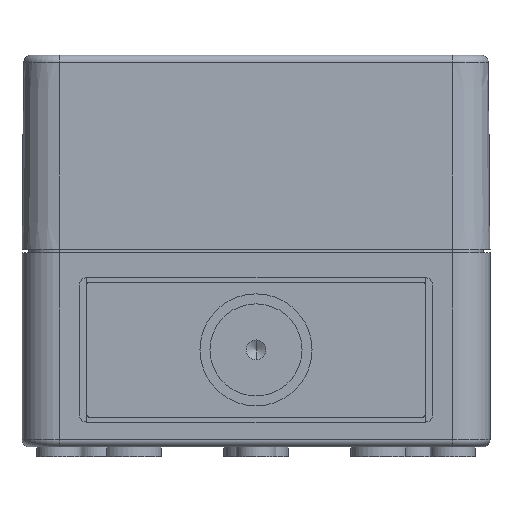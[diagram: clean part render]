
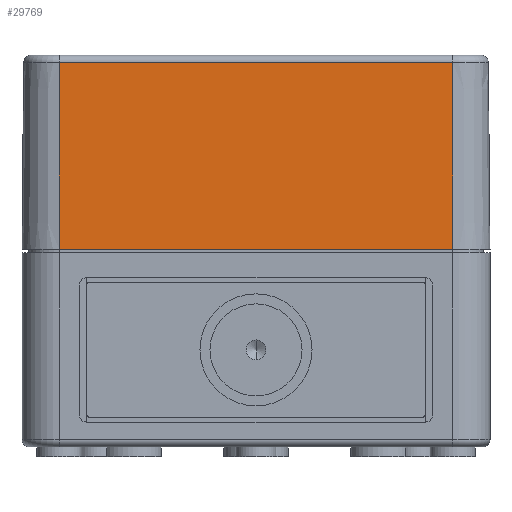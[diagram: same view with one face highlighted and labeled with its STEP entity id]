
A CAD part, front view. The second image highlights one B-rep face of the part: STEP entity #29769.
In plain terms, the highlighted planar face has unit normal (0, -1, 0.009).
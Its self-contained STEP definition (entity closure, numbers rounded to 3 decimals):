
#344 = CARTESIAN_POINT ( 'NONE',  ( 39.5, -46.673, 37.513 ) ) ;
#785 = DIRECTION ( 'NONE',  ( 0., 0.009, 1. ) ) ;
#969 = DIRECTION ( 'NONE',  ( 0., -0.009, -1. ) ) ;
#3981 = VECTOR ( 'NONE', #969, 1000. ) ;
#4092 = CARTESIAN_POINT ( 'NONE',  ( 39.5, -47., 0. ) ) ;
#4593 = VECTOR ( 'NONE', #28689, 1000. ) ;
#4850 = LINE ( 'NONE', #32760, #3981 ) ;
#4918 = DIRECTION ( 'NONE',  ( 0., -0.009, -1. ) ) ;
#7427 = VECTOR ( 'NONE', #4918, 1000. ) ;
#7995 = VERTEX_POINT ( 'NONE', #19763 ) ;
#8902 = EDGE_LOOP ( 'NONE', ( #9030, #12555, #20040, #8953 ) ) ;
#8953 = ORIENTED_EDGE ( 'NONE', *, *, #34188, .T. ) ;
#9030 = ORIENTED_EDGE ( 'NONE', *, *, #21791, .T. ) ;
#10292 = CARTESIAN_POINT ( 'NONE',  ( 39.5, -47., 0. ) ) ;
#10392 = EDGE_CURVE ( 'NONE', #13394, #7995, #24836, .T. ) ;
#12555 = ORIENTED_EDGE ( 'NONE', *, *, #10392, .F. ) ;
#13394 = VERTEX_POINT ( 'NONE', #4092 ) ;
#14131 = AXIS2_PLACEMENT_3D ( 'NONE', #32495, #16700, #785 ) ;
#14468 = LINE ( 'NONE', #31196, #7427 ) ;
#15241 = VECTOR ( 'NONE', #18940, 1000. ) ;
#16573 = PLANE ( 'NONE',  #14131 ) ;
#16700 = DIRECTION ( 'NONE',  ( 0., 1., -0.009 ) ) ;
#18940 = DIRECTION ( 'NONE',  ( -1., 0., 0. ) ) ;
#19763 = CARTESIAN_POINT ( 'NONE',  ( -39.5, -47., 0. ) ) ;
#20040 = ORIENTED_EDGE ( 'NONE', *, *, #29243, .F. ) ;
#21791 = EDGE_CURVE ( 'NONE', #23194, #7995, #14468, .T. ) ;
#22241 = LINE ( 'NONE', #344, #15241 ) ;
#23194 = VERTEX_POINT ( 'NONE', #24773 ) ;
#23357 = VERTEX_POINT ( 'NONE', #28075 ) ;
#24605 = FACE_OUTER_BOUND ( 'NONE', #8902, .T. ) ;
#24773 = CARTESIAN_POINT ( 'NONE',  ( -39.5, -46.673, 37.513 ) ) ;
#24836 = LINE ( 'NONE', #10292, #4593 ) ;
#28075 = CARTESIAN_POINT ( 'NONE',  ( 39.5, -46.673, 37.513 ) ) ;
#28689 = DIRECTION ( 'NONE',  ( -1., 0., 0. ) ) ;
#29243 = EDGE_CURVE ( 'NONE', #23357, #13394, #4850, .T. ) ;
#29769 = ADVANCED_FACE ( 'NONE', ( #24605 ), #16573, .F. ) ;
#31196 = CARTESIAN_POINT ( 'NONE',  ( -39.5, -46.673, 37.513 ) ) ;
#32495 = CARTESIAN_POINT ( 'NONE',  ( 39.5, -46.673, 37.513 ) ) ;
#32760 = CARTESIAN_POINT ( 'NONE',  ( 39.5, -46.673, 37.513 ) ) ;
#34188 = EDGE_CURVE ( 'NONE', #23357, #23194, #22241, .T. ) ;
